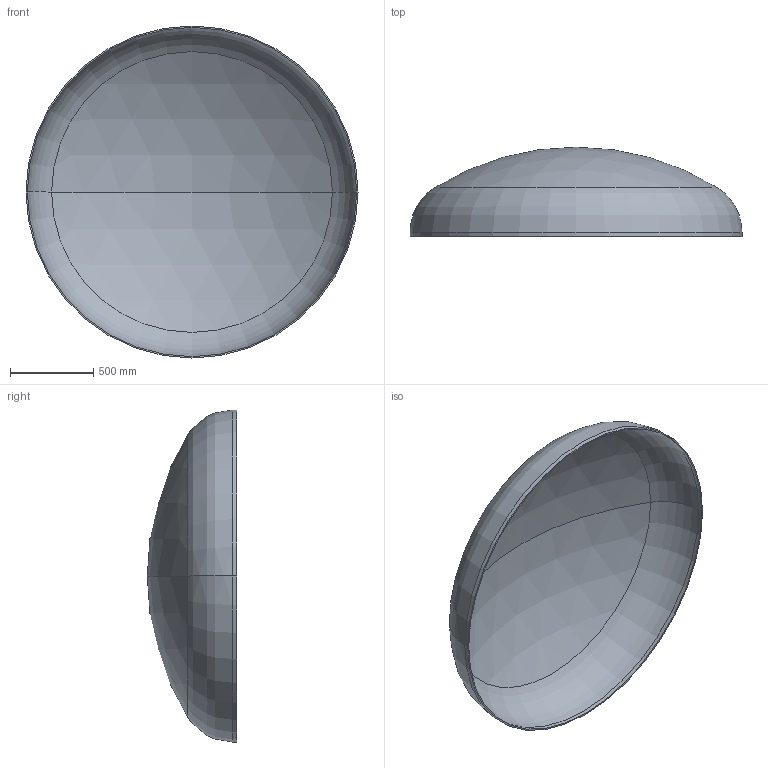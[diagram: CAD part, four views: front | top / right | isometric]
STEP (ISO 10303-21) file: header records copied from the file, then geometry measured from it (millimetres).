
FILE_DESCRIPTION (( 'STEP AP203' ), '1' );
FILE_NAME ('DIN 28013 Korbbogenform_-_Boden DIN 28013 - 2000 x 25 - I - s=8.step', '2016-07-01T13:34:24', ( '' ), ( '' ), 'SwSTEP 2.0', 'SolidWorks 2013', '' );
FILE_SCHEMA (( 'CONFIG_CONTROL_DESIGN' ));
Length unit declared in the file: millimetre
Products named in the file (1): DIN 28013 Korbbogenform_-_Boden DIN 28013 - 2000 x 25 - I - s=8
Bounding box: 2000 x 538.02 x 2000 mm (x, y, z)
Volume: 35922036.3 mm3; surface area: 9030703.9 mm2
Topology: 1 solids, 1 shells, 13 faces, 24 edges, 14 vertices
Faces by surface type: torus 4, cylinder 4, sphere 4, plane 1
Entity records: 407 total; most frequent: DIRECTION 72, CARTESIAN_POINT 52, ORIENTED_EDGE 48, AXIS2_PLACEMENT_3D 34, EDGE_CURVE 24, CIRCLE 20, EDGE_LOOP 14, VERTEX_POINT 14
